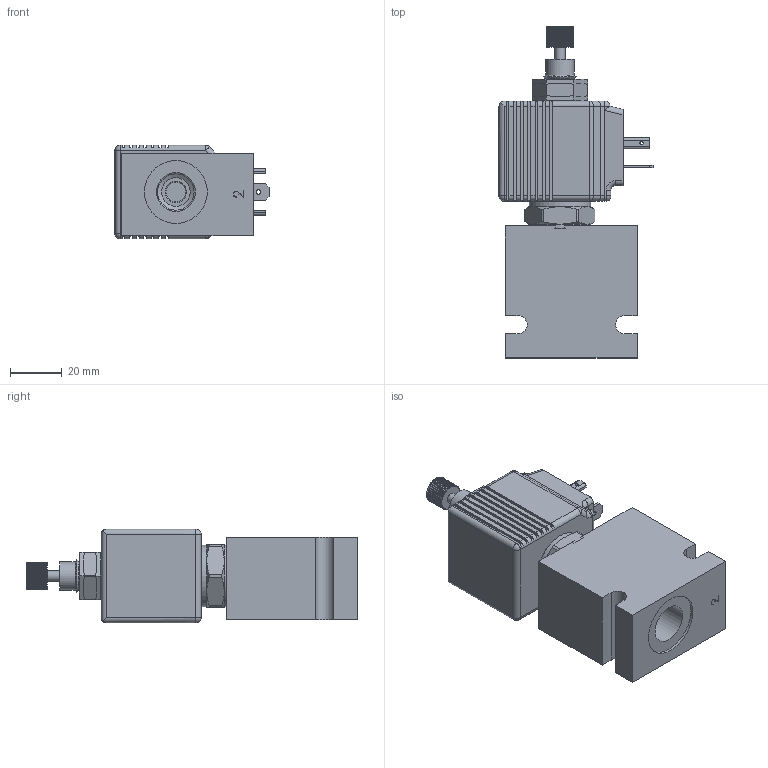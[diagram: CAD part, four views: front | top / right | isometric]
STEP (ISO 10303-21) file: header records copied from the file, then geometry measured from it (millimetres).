
FILE_DESCRIPTION( ( 'Unknown' ), '1' );
FILE_NAME( 'G:/Graphic Design/Graphic Design 2/Data Sheets/SOLENOID OPERATED VALVES/4_STEP/2W2P Normally Closed/T-HBS2A0MB2.stp', 'Unknown', ( 'Unknown' ), ( 'Unknown' ), 'PSStep 16.0.42', 'Unknown', ' ' );
FILE_SCHEMA( ( 'AUTOMOTIVE_DESIGN { 1 0 10303 214 1 1 1 1 }' ) );
Length unit declared in the file: millimetre
Products named in the file (11): D-HBS2C0M; Part2_0; Part4_0; Part6; HBS2C0M-BODY; Delta_1_2_nut1; T-JHC-26-O Rings; T-JHC26; PT-OR-2-015-N70A; Assem1; B-DPBB2
Assembly tree (12 placements, depth 3):
  Assem1
    B-DPBB2
    Delta_1_2_nut1
    D-HBS2C0M
      Part2_0
      Part4_0
      Part6
      HBS2C0M-BODY
      Delta_1_2_nut1
    T-JHC-26-O Rings
      T-JHC26
      PT-OR-2-015-N70A  x2
Bounding box: 59.4 x 127.8 x 36 mm (x, y, z)
Surface area: 37476.8 mm2 (no closed solid volume)
Topology: 0 solids, 746 shells, 746 faces, 3847 edges, 3719 vertices
Faces by surface type: plane 523, cylinder 94, cone 91, torus 28, sphere 8, bspline 2
Full cylindrical faces by diameter (mm): 0.2 x2, 1.245 x2, 1.5 x1, 1.666 x1, 4 x1, 5.004 x4, 7.633 x1, 7.785 x1, 9.855 x2, 10.225 x1, 10.997 x1, 11 x2, 11.125 x1, 11.151 x1, 12.497 x1, 12.548 x1, 12.649 x2, 12.7 x1, 12.776 x2, 12.979 x1, 13.2 x1, 14 x1, 14.453 x1, 15 x4, 16.866 x2, 17 x2, 17.33 x2, 23.749 x2, 24.2 x2
Entity records: 41464 total; most frequent: CARTESIAN_POINT 10323, DIRECTION 4732, VERTEX_POINT 3551, ORIENTED_EDGE 3548, EDGE_CURVE 3548, LINE 1660, VECTOR 1660, AXIS2_PLACEMENT_3D 1536
